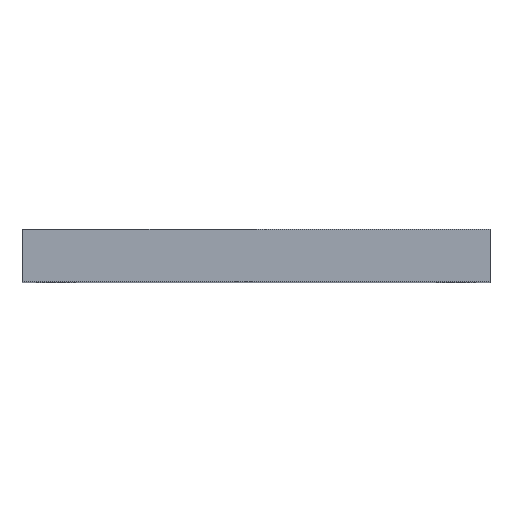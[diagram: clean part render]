
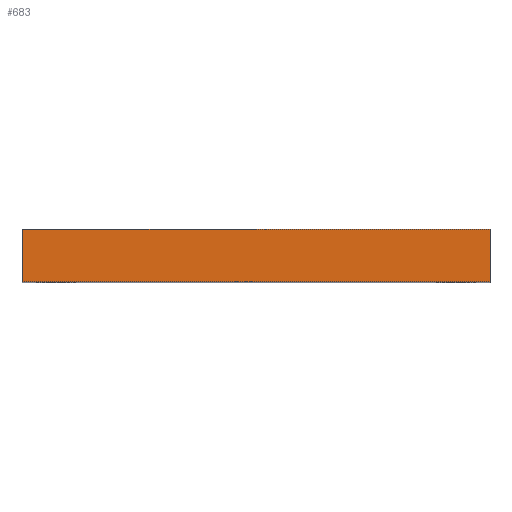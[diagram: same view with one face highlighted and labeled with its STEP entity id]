
A CAD part, top view. The second image highlights one B-rep face of the part: STEP entity #683.
In plain terms, the highlighted planar face has unit normal (0, 0, 1).
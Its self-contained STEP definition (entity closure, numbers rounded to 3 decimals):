
#56 = EDGE_CURVE ( 'NONE', #312, #758, #790, .T. ) ;
#66 = CARTESIAN_POINT ( 'NONE',  ( 248., 56., 273. ) ) ;
#110 = CARTESIAN_POINT ( 'NONE',  ( 248., 0., 273. ) ) ;
#113 = VERTEX_POINT ( 'NONE', #283 ) ;
#128 = CARTESIAN_POINT ( 'NONE',  ( -248., 56., 273. ) ) ;
#149 = CARTESIAN_POINT ( 'NONE',  ( -248., 0., 273. ) ) ;
#160 = ORIENTED_EDGE ( 'NONE', *, *, #418, .T. ) ;
#161 = CARTESIAN_POINT ( 'NONE',  ( 248., 56., 273. ) ) ;
#223 = VECTOR ( 'NONE', #389, 1000. ) ;
#278 = EDGE_LOOP ( 'NONE', ( #160, #719, #372, #328 ) ) ;
#283 = CARTESIAN_POINT ( 'NONE',  ( -248., 0., 273. ) ) ;
#312 = VERTEX_POINT ( 'NONE', #66 ) ;
#328 = ORIENTED_EDGE ( 'NONE', *, *, #355, .T. ) ;
#342 = VECTOR ( 'NONE', #678, 1000. ) ;
#355 = EDGE_CURVE ( 'NONE', #570, #113, #395, .T. ) ;
#369 = VECTOR ( 'NONE', #394, 1000. ) ;
#372 = ORIENTED_EDGE ( 'NONE', *, *, #424, .F. ) ;
#389 = DIRECTION ( 'NONE',  ( 1., 0., 0. ) ) ;
#394 = DIRECTION ( 'NONE',  ( 0., -1., 0. ) ) ;
#395 = LINE ( 'NONE', #668, #496 ) ;
#401 = CARTESIAN_POINT ( 'NONE',  ( -248., 56., 273. ) ) ;
#418 = EDGE_CURVE ( 'NONE', #113, #758, #511, .T. ) ;
#424 = EDGE_CURVE ( 'NONE', #570, #312, #528, .T. ) ;
#438 = DIRECTION ( 'NONE',  ( 0., -1., 0. ) ) ;
#496 = VECTOR ( 'NONE', #438, 1000. ) ;
#511 = LINE ( 'NONE', #149, #223 ) ;
#528 = LINE ( 'NONE', #128, #342 ) ;
#570 = VERTEX_POINT ( 'NONE', #401 ) ;
#596 = DIRECTION ( 'NONE',  ( 0., 0., -1. ) ) ;
#668 = CARTESIAN_POINT ( 'NONE',  ( -248., 56., 273. ) ) ;
#678 = DIRECTION ( 'NONE',  ( 1., 0., 0. ) ) ;
#683 = ADVANCED_FACE ( 'NONE', ( #783 ), #780, .F. ) ;
#704 = CARTESIAN_POINT ( 'NONE',  ( -248., 56., 273. ) ) ;
#709 = DIRECTION ( 'NONE',  ( -1., 0., 0. ) ) ;
#719 = ORIENTED_EDGE ( 'NONE', *, *, #56, .F. ) ;
#758 = VERTEX_POINT ( 'NONE', #110 ) ;
#780 = PLANE ( 'NONE',  #784 ) ;
#783 = FACE_OUTER_BOUND ( 'NONE', #278, .T. ) ;
#784 = AXIS2_PLACEMENT_3D ( 'NONE', #704, #596, #709 ) ;
#790 = LINE ( 'NONE', #161, #369 ) ;
